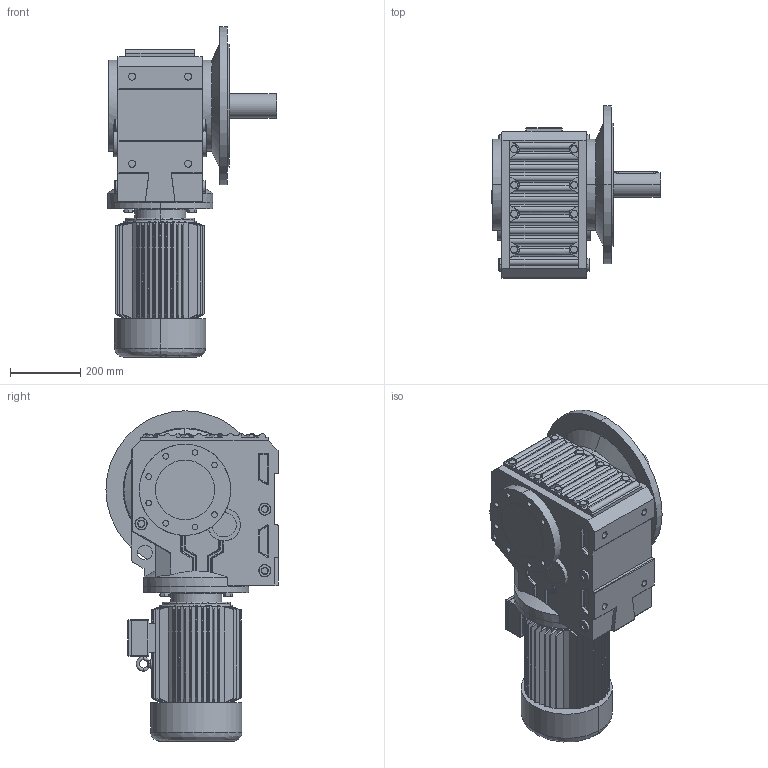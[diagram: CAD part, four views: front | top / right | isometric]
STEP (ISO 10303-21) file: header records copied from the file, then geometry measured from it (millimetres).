
FILE_DESCRIPTION (( 'STEP AP214' ), '1' );
FILE_NAME ('MKF97A.step', '2020-06-27T07:31:34', ( '' ), ( '' ), 'SwSTEP 2.0', 'SolidWorks 2016', '' );
FILE_SCHEMA (( 'AUTOMOTIVE_DESIGN' ));
Length unit declared in the file: millimetre
Products named in the file (1): MKF97A
Bounding box: 481.5 x 490 x 941 mm (x, y, z)
Volume: 66709807.2 mm3; surface area: 2323312.4 mm2
Topology: 5 solids, 5 shells, 1387 faces, 3404 edges, 2077 vertices
Faces by surface type: plane 618, cylinder 356, cone 230, bspline 183
Entity records: 60535 total; most frequent: CARTESIAN_POINT 14405, ORIENTED_EDGE 6720, DIRECTION 5925, EDGE_CURVE 3360, AXIS2_PLACEMENT_3D 2148, VERTEX_POINT 2077, LINE 1629, VECTOR 1629
